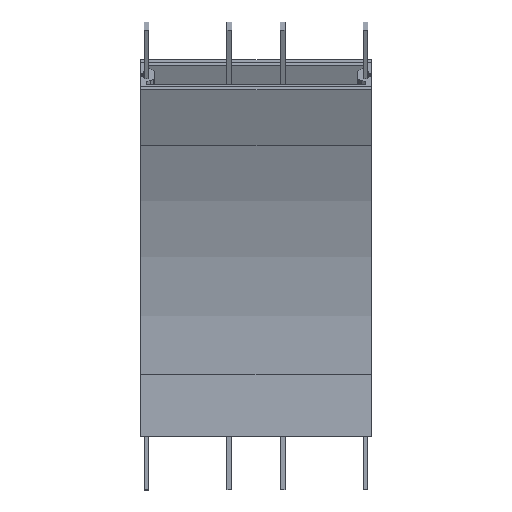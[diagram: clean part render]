
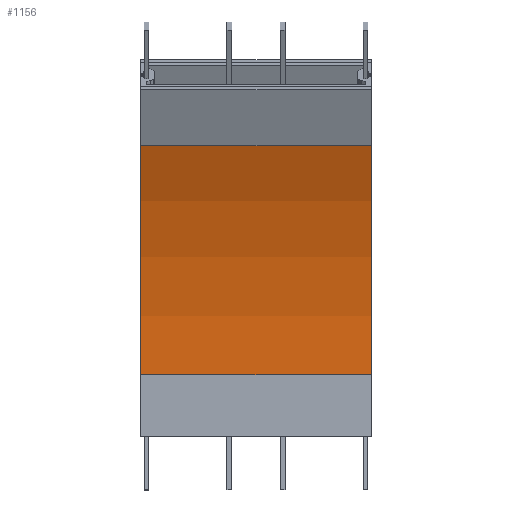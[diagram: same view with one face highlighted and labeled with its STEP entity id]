
A CAD part, top view. The second image highlights one B-rep face of the part: STEP entity #1156.
In plain terms, the highlighted cylindrical face has radius 703.5 mm (diameter 1407 mm), a partial arc.
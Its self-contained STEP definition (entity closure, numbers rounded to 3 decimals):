
#110 = DIRECTION ( 'NONE',  ( -1., 0., 0. ) ) ;
#276 = AXIS2_PLACEMENT_3D ( 'NONE', #9488, #2402, #4894 ) ;
#395 = CARTESIAN_POINT ( 'NONE',  ( 150., 377.312, 112.412 ) ) ;
#486 = CIRCLE ( 'NONE', #4634, 703.5 ) ;
#675 = EDGE_CURVE ( 'NONE', #3393, #7627, #1565, .T. ) ;
#717 = DIRECTION ( 'NONE',  ( -1., 0., 0. ) ) ;
#762 = CARTESIAN_POINT ( 'NONE',  ( 150., 80., 46.5 ) ) ;
#1156 = ADVANCED_FACE ( 'NONE', ( #7824 ), #8809, .F. ) ;
#1485 = CARTESIAN_POINT ( 'NONE',  ( -150., 377.312, 112.412 ) ) ;
#1565 = LINE ( 'NONE', #7238, #2124 ) ;
#2124 = VECTOR ( 'NONE', #110, 1000. ) ;
#2129 = ORIENTED_EDGE ( 'NONE', *, *, #4688, .T. ) ;
#2402 = DIRECTION ( 'NONE',  ( -1., 0., 0. ) ) ;
#2589 = EDGE_CURVE ( 'NONE', #6571, #7627, #486, .T. ) ;
#2749 = LINE ( 'NONE', #7408, #6155 ) ;
#3393 = VERTEX_POINT ( 'NONE', #762 ) ;
#4196 = CARTESIAN_POINT ( 'NONE',  ( -150., 80., 46.5 ) ) ;
#4634 = AXIS2_PLACEMENT_3D ( 'NONE', #6457, #8000, #10238 ) ;
#4688 = EDGE_CURVE ( 'NONE', #6477, #6571, #2749, .T. ) ;
#4894 = DIRECTION ( 'NONE',  ( 0., 0., 1. ) ) ;
#4937 = DIRECTION ( 'NONE',  ( -1., 0., 0. ) ) ;
#5341 = EDGE_CURVE ( 'NONE', #6477, #3393, #6167, .T. ) ;
#6004 = AXIS2_PLACEMENT_3D ( 'NONE', #7723, #717, #8563 ) ;
#6155 = VECTOR ( 'NONE', #4937, 1000. ) ;
#6167 = CIRCLE ( 'NONE', #6004, 703.5 ) ;
#6457 = CARTESIAN_POINT ( 'NONE',  ( -150., 80., 750. ) ) ;
#6477 = VERTEX_POINT ( 'NONE', #395 ) ;
#6571 = VERTEX_POINT ( 'NONE', #1485 ) ;
#7238 = CARTESIAN_POINT ( 'NONE',  ( -150., 80., 46.5 ) ) ;
#7408 = CARTESIAN_POINT ( 'NONE',  ( -150., 377.312, 112.412 ) ) ;
#7510 = ORIENTED_EDGE ( 'NONE', *, *, #5341, .F. ) ;
#7627 = VERTEX_POINT ( 'NONE', #4196 ) ;
#7723 = CARTESIAN_POINT ( 'NONE',  ( 150., 80., 750. ) ) ;
#7824 = FACE_OUTER_BOUND ( 'NONE', #8821, .T. ) ;
#8000 = DIRECTION ( 'NONE',  ( -1., 0., 0. ) ) ;
#8563 = DIRECTION ( 'NONE',  ( 0., 0.423, -0.906 ) ) ;
#8809 = CYLINDRICAL_SURFACE ( 'NONE', #276, 703.5 ) ;
#8821 = EDGE_LOOP ( 'NONE', ( #8961, #7510, #2129, #10195 ) ) ;
#8961 = ORIENTED_EDGE ( 'NONE', *, *, #675, .F. ) ;
#9488 = CARTESIAN_POINT ( 'NONE',  ( 0., 80., 750. ) ) ;
#10195 = ORIENTED_EDGE ( 'NONE', *, *, #2589, .T. ) ;
#10238 = DIRECTION ( 'NONE',  ( 0., 0.423, -0.906 ) ) ;
